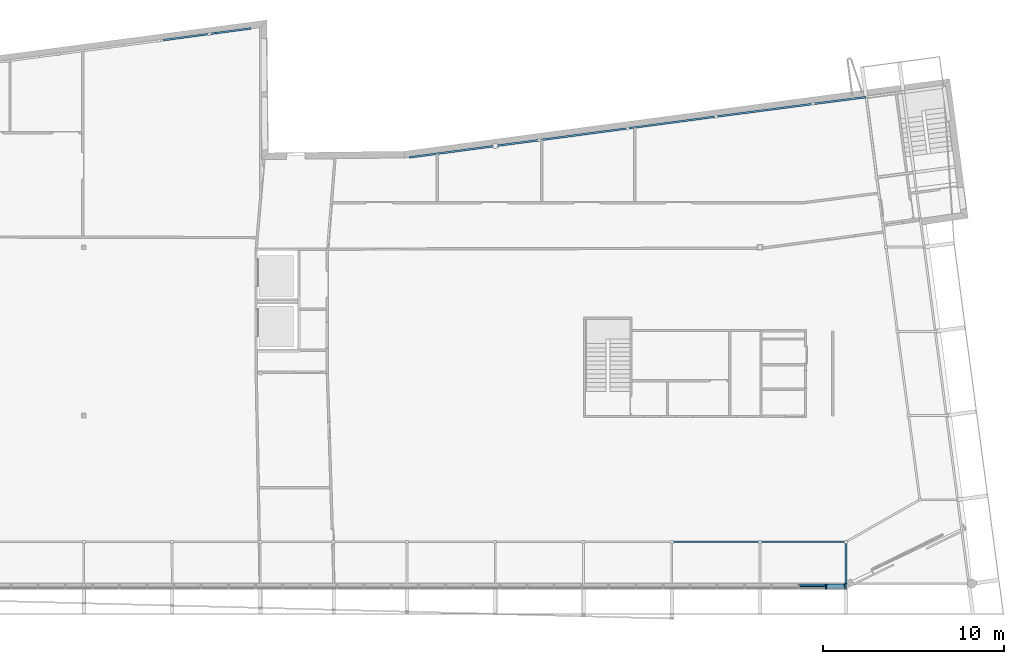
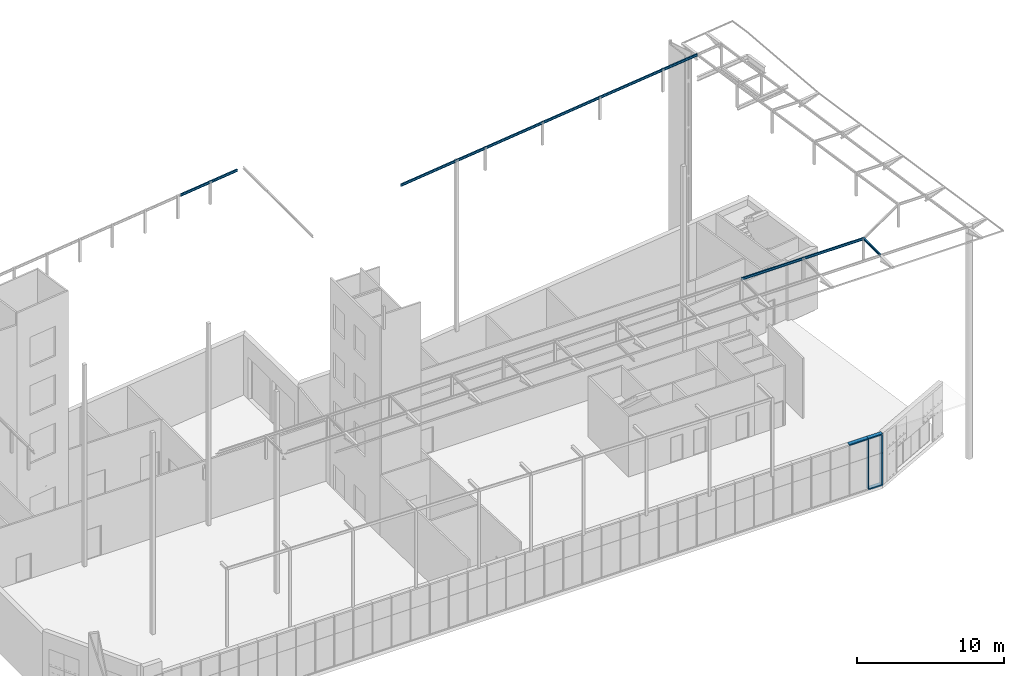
# One storey, part 15 of 40: 11 beams, 8 members, 1 element without a shape of its own.
"""IFC2X3 building model written with IfcOpenShell, lengths in metres."""

from ifc_helpers import new_model, entity, si_unit, converted_unit, money_unit, point, direction, frame, frame_2d, origin_with_axes, place, context, subcontext, project, spatial, polyline, circle_curve, parameter, trimmed, segment, composite_curve, outline, extrude, clip, halfspace, material, type_object, element, aggregate, save


model = new_model("IFC2X3")

# Units and contexts
model_context = context("Model", 3, precision=1e-05, world=origin_with_axes(), true_north=direction((0.0, 1.0)))
body_context = subcontext(model_context, "Body", "Model", "MODEL_VIEW")
ifc_project = project(units=[si_unit("LENGTHUNIT", "METRE"), si_unit("AREAUNIT", "SQUARE_METRE"), si_unit("VOLUMEUNIT", "CUBIC_METRE"), converted_unit("PLANEANGLEUNIT", "DEGREE", entity("IfcPlaneAngleMeasure", 0.0174532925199), si_unit("PLANEANGLEUNIT", "RADIAN"), dimensions=[0, 0, 0, 0, 0, 0, 0]), si_unit("SOLIDANGLEUNIT", "STERADIAN"), money_unit("EUR"), converted_unit("TIMEUNIT", "Year", entity("IfcTimeMeasure", 31556926.0), si_unit("TIMEUNIT", "SECOND"), dimensions=[0, 0, 0, 0, 0, 0, 0]), si_unit("MASSUNIT", "GRAM"), si_unit("THERMODYNAMICTEMPERATUREUNIT", "DEGREE_CELSIUS"), si_unit("LUMINOUSINTENSITYUNIT", "LUMEN")], contexts=[model_context])

# Site, building, storey
site_placement = place(None, origin_with_axes())
site = spatial("IfcSite", under=ifc_project, at=site_placement, Name="Undefined", CompositionType="ELEMENT")
building_placement = place(site_placement, origin_with_axes())
building = spatial("IfcBuilding", under=site, at=building_placement, Name="Undefined", CompositionType="ELEMENT")
storey_placement = place(building_placement, origin_with_axes())
storey = spatial("IfcBuildingStorey", under=building, at=storey_placement, Name="Rez de chauss\x8ee", CompositionType="ELEMENT", Elevation=0.0)

# Beams
ifc_material_1 = material(Name="STEEL/S235JRG2 3386696625")
beam_type_1 = type_object("IfcBeamType", Name="IPE200", PredefinedType="NOTDEFINED")
beam_1_placement = place(storey_placement, frame((51.9749999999, 2.32500000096, 19.025), z_axis=(0.0, 0.0, 1.0), x_axis=(0.0, -1.0, 0.0)))
element("IfcBeam", 1, at=beam_1_placement, inside=storey, type_object=beam_type_1, material=ifc_material_1, Name="Poutre", ObjectType="BEAM", context=body_context, shape_type="SweptSolid", body=[
    extrude(outline(composite_curve([segment(polyline([(0.05, -0.1), (0.05, -0.0915), (0.0147999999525, -0.0915)]), True, "CONTINUOUS"), segment(trimmed(circle_curve(frame_2d((0.0147999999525, -0.0795), x_axis=(-1.0, 0.0)), 0.012), [point((0.0147999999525, -0.0915)), parameter(90.0)], [point((0.0027999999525, -0.0795)), parameter(0.0)], False, "CARTESIAN"), True, "CONTINUOUS"), segment(polyline([(0.0027999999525, -0.0795), (0.0027999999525, 0.0795)]), True, "CONTINUOUS"), segment(trimmed(circle_curve(frame_2d((0.0147999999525, 0.0795), x_axis=(0.0, 1.0)), 0.012), [point((0.0027999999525, 0.0795)), parameter(90.0)], [point((0.0147999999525, 0.0915)), parameter(0.0)], False, "CARTESIAN"), True, "CONTINUOUS"), segment(polyline([(0.0147999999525, 0.0915), (0.05, 0.0915), (0.05, 0.1), (-0.05, 0.1), (-0.05, 0.0915), (-0.0147999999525, 0.0915)]), True, "CONTINUOUS"), segment(trimmed(circle_curve(frame_2d((-0.0147999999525, 0.0795), x_axis=(1.0, 0.0)), 0.012), [point((-0.0147999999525, 0.0915)), parameter(90.0)], [point((-0.0027999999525, 0.0795)), parameter(0.0)], False, "CARTESIAN"), True, "CONTINUOUS"), segment(polyline([(-0.0027999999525, 0.0795), (-0.0027999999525, -0.0795)]), True, "CONTINUOUS"), segment(trimmed(circle_curve(frame_2d((-0.0147999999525, -0.0795), x_axis=(0.0, -1.0)), 0.012), [point((-0.0027999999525, -0.0795)), parameter(90.0)], [point((-0.0147999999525, -0.0915)), parameter(0.0)], False, "CARTESIAN"), True, "CONTINUOUS"), segment(polyline([(-0.0147999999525, -0.0915), (-0.05, -0.0915), (-0.05, -0.1), (0.05, -0.1)]), True, "CONTINUOUS")], self_intersect=False)), frame((0.0, 4.87499999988, 0.0), z_axis=(0.0, -1.0, 0.0), x_axis=(1.0, 0.0, 0.0)), (0.0, 0.0, 1.0), 4.87499999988),
])
beam_2_placement = place(storey_placement, frame((26.7899999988, 30.4211500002, 19.025), z_axis=(0.0, 0.0, 1.0), x_axis=(0.132254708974, -0.991215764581, 0.0)))
element("IfcBeam", 2, at=beam_2_placement, inside=storey, type_object=beam_type_1, material=ifc_material_1, Name="Poutre", ObjectType="BEAM", context=body_context, shape_type="SweptSolid", body=[
    extrude(outline(composite_curve([segment(polyline([(0.05, -0.1), (0.05, -0.0915), (0.0147999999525, -0.0915)]), True, "CONTINUOUS"), segment(trimmed(circle_curve(frame_2d((0.0147999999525, -0.0795), x_axis=(-1.0, 0.0)), 0.012), [point((0.0147999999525, -0.0915)), parameter(90.0)], [point((0.0027999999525, -0.0795)), parameter(0.0)], False, "CARTESIAN"), True, "CONTINUOUS"), segment(polyline([(0.0027999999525, -0.0795), (0.0027999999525, 0.0795)]), True, "CONTINUOUS"), segment(trimmed(circle_curve(frame_2d((0.0147999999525, 0.0795), x_axis=(0.0, 1.0)), 0.012), [point((0.0027999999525, 0.0795)), parameter(90.0)], [point((0.0147999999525, 0.0915)), parameter(0.0)], False, "CARTESIAN"), True, "CONTINUOUS"), segment(polyline([(0.0147999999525, 0.0915), (0.05, 0.0915), (0.05, 0.1), (-0.05, 0.1), (-0.05, 0.0915), (-0.0147999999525, 0.0915)]), True, "CONTINUOUS"), segment(trimmed(circle_curve(frame_2d((-0.0147999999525, 0.0795), x_axis=(1.0, 0.0)), 0.012), [point((-0.0147999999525, 0.0915)), parameter(90.0)], [point((-0.0027999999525, 0.0795)), parameter(0.0)], False, "CARTESIAN"), True, "CONTINUOUS"), segment(polyline([(-0.0027999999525, 0.0795), (-0.0027999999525, -0.0795)]), True, "CONTINUOUS"), segment(trimmed(circle_curve(frame_2d((-0.0147999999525, -0.0795), x_axis=(0.0, -1.0)), 0.012), [point((-0.0027999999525, -0.0795)), parameter(90.0)], [point((-0.0147999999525, -0.0915)), parameter(0.0)], False, "CARTESIAN"), True, "CONTINUOUS"), segment(polyline([(-0.0147999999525, -0.0915), (-0.05, -0.0915), (-0.05, -0.1), (0.05, -0.1)]), True, "CONTINUOUS")], self_intersect=False)), frame((0.0, 1.96801805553, 0.0), z_axis=(0.0, -1.0, 0.0), x_axis=(1.0, 0.0, 0.0)), (0.0, 0.0, 1.0), 1.96801805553),
])
beam_3_placement = place(storey_placement, frame((23.9011899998, 30.0356991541, 19.025), z_axis=(0.0, 0.0, 1.0), x_axis=(0.132256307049, -0.991215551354, 0.0)))
element("IfcBeam", 3, at=beam_3_placement, inside=storey, type_object=beam_type_1, material=ifc_material_1, Name="Poutre", ObjectType="BEAM", context=body_context, shape_type="SweptSolid", body=[
    extrude(outline(composite_curve([segment(polyline([(0.05, -0.1), (0.05, -0.0915), (0.0147999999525, -0.0915)]), True, "CONTINUOUS"), segment(trimmed(circle_curve(frame_2d((0.0147999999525, -0.0795), x_axis=(-1.0, 0.0)), 0.012), [point((0.0147999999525, -0.0915)), parameter(90.0)], [point((0.0027999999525, -0.0795)), parameter(0.0)], False, "CARTESIAN"), True, "CONTINUOUS"), segment(polyline([(0.0027999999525, -0.0795), (0.0027999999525, 0.0795)]), True, "CONTINUOUS"), segment(trimmed(circle_curve(frame_2d((0.0147999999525, 0.0795), x_axis=(0.0, 1.0)), 0.012), [point((0.0027999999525, 0.0795)), parameter(90.0)], [point((0.0147999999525, 0.0915)), parameter(0.0)], False, "CARTESIAN"), True, "CONTINUOUS"), segment(polyline([(0.0147999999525, 0.0915), (0.05, 0.0915), (0.05, 0.1), (-0.05, 0.1), (-0.05, 0.0915), (-0.0147999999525, 0.0915)]), True, "CONTINUOUS"), segment(trimmed(circle_curve(frame_2d((-0.0147999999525, 0.0795), x_axis=(1.0, 0.0)), 0.012), [point((-0.0147999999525, 0.0915)), parameter(90.0)], [point((-0.0027999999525, 0.0795)), parameter(0.0)], False, "CARTESIAN"), True, "CONTINUOUS"), segment(polyline([(-0.0027999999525, 0.0795), (-0.0027999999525, -0.0795)]), True, "CONTINUOUS"), segment(trimmed(circle_curve(frame_2d((-0.0147999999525, -0.0795), x_axis=(0.0, -1.0)), 0.012), [point((-0.0027999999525, -0.0795)), parameter(90.0)], [point((-0.0147999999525, -0.0915)), parameter(0.0)], False, "CARTESIAN"), True, "CONTINUOUS"), segment(polyline([(-0.0147999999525, -0.0915), (-0.05, -0.0915), (-0.05, -0.1), (0.05, -0.1)]), True, "CONTINUOUS")], self_intersect=False)), frame((0.0, 2.91441170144, 0.0), z_axis=(0.0, -1.0, 0.0), x_axis=(1.0, 0.0, 0.0)), (0.0, 0.0, 1.0), 2.91441170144),
])
beam_4_placement = place(storey_placement, frame((56.8499999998, 2.32500000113, 19.025), z_axis=(0.0, 0.0, 1.0), x_axis=(0.0, -1.0, 0.0)))
element("IfcBeam", 4, at=beam_4_placement, inside=storey, type_object=beam_type_1, material=ifc_material_1, Name="Poutre", ObjectType="BEAM", context=body_context, shape_type="SweptSolid", body=[
    extrude(outline(composite_curve([segment(polyline([(0.05, -0.1), (0.05, -0.0915), (0.0147999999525, -0.0915)]), True, "CONTINUOUS"), segment(trimmed(circle_curve(frame_2d((0.0147999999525, -0.0795), x_axis=(-1.0, 0.0)), 0.012), [point((0.0147999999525, -0.0915)), parameter(90.0)], [point((0.0027999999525, -0.0795)), parameter(0.0)], False, "CARTESIAN"), True, "CONTINUOUS"), segment(polyline([(0.0027999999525, -0.0795), (0.0027999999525, 0.0795)]), True, "CONTINUOUS"), segment(trimmed(circle_curve(frame_2d((0.0147999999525, 0.0795), x_axis=(0.0, 1.0)), 0.012), [point((0.0027999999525, 0.0795)), parameter(90.0)], [point((0.0147999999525, 0.0915)), parameter(0.0)], False, "CARTESIAN"), True, "CONTINUOUS"), segment(polyline([(0.0147999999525, 0.0915), (0.05, 0.0915), (0.05, 0.1), (-0.05, 0.1), (-0.05, 0.0915), (-0.0147999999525, 0.0915)]), True, "CONTINUOUS"), segment(trimmed(circle_curve(frame_2d((-0.0147999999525, 0.0795), x_axis=(1.0, 0.0)), 0.012), [point((-0.0147999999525, 0.0915)), parameter(90.0)], [point((-0.0027999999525, 0.0795)), parameter(0.0)], False, "CARTESIAN"), True, "CONTINUOUS"), segment(polyline([(-0.0027999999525, 0.0795), (-0.0027999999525, -0.0795)]), True, "CONTINUOUS"), segment(trimmed(circle_curve(frame_2d((-0.0147999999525, -0.0795), x_axis=(0.0, -1.0)), 0.012), [point((-0.0027999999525, -0.0795)), parameter(90.0)], [point((-0.0147999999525, -0.0915)), parameter(0.0)], False, "CARTESIAN"), True, "CONTINUOUS"), segment(polyline([(-0.0147999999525, -0.0915), (-0.05, -0.0915), (-0.05, -0.1), (0.05, -0.1)]), True, "CONTINUOUS")], self_intersect=False)), frame((0.0, 4.74999999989, 0.0), z_axis=(0.0, -1.0, 0.0), x_axis=(1.0, 0.0, 0.0)), (0.0, 0.0, 1.0), 4.74999999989),
])
beam_5_placement = place(storey_placement, frame((61.5999999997, -4.68317345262e-06, 19.02503), z_axis=(0.0, 0.0, 1.0), x_axis=(1.0, 0.0, 0.0)))
element("IfcBeam", 5, at=beam_5_placement, inside=storey, type_object=beam_type_1, material=ifc_material_1, Name="BEAM", ObjectType="BEAM", context=body_context, shape_type="Clipping", body=[
    clip(clip(extrude(outline(composite_curve([segment(polyline([(0.05, -0.1), (0.05, -0.0915), (0.0147999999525, -0.0915)]), True, "CONTINUOUS"), segment(trimmed(circle_curve(frame_2d((0.0147999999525, -0.0795), x_axis=(-1.0, 0.0)), 0.012), [point((0.0147999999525, -0.0915)), parameter(90.0)], [point((0.0027999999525, -0.0795)), parameter(0.0)], False, "CARTESIAN"), True, "CONTINUOUS"), segment(polyline([(0.0027999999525, -0.0795), (0.0027999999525, 0.0795)]), True, "CONTINUOUS"), segment(trimmed(circle_curve(frame_2d((0.0147999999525, 0.0795), x_axis=(0.0, 1.0)), 0.012), [point((0.0027999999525, 0.0795)), parameter(90.0)], [point((0.0147999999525, 0.0915)), parameter(0.0)], False, "CARTESIAN"), True, "CONTINUOUS"), segment(polyline([(0.0147999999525, 0.0915), (0.05, 0.0915), (0.05, 0.1), (-0.05, 0.1), (-0.05, 0.0915), (-0.0147999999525, 0.0915)]), True, "CONTINUOUS"), segment(trimmed(circle_curve(frame_2d((-0.0147999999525, 0.0795), x_axis=(1.0, 0.0)), 0.012), [point((-0.0147999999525, 0.0915)), parameter(90.0)], [point((-0.0027999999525, 0.0795)), parameter(0.0)], False, "CARTESIAN"), True, "CONTINUOUS"), segment(polyline([(-0.0027999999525, 0.0795), (-0.0027999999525, -0.0795)]), True, "CONTINUOUS"), segment(trimmed(circle_curve(frame_2d((-0.0147999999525, -0.0795), x_axis=(0.0, -1.0)), 0.012), [point((-0.0027999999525, -0.0795)), parameter(90.0)], [point((-0.0147999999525, -0.0915)), parameter(0.0)], False, "CARTESIAN"), True, "CONTINUOUS"), segment(polyline([(-0.0147999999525, -0.0915), (-0.05, -0.0915), (-0.05, -0.1), (0.05, -0.1)]), True, "CONTINUOUS")], self_intersect=False)), frame((0.0, 2.32501018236, -2.79001147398e-05), z_axis=(0.0, -0.999999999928, 1.19999967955e-05), x_axis=(1.0, 0.0, 0.0)), (0.0, 0.0, 1.0), 2.32501357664), halfspace(frame((0.0, 3.39411164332e-06, 0.0), z_axis=(0.0, 0.999999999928, -1.19999967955e-05), x_axis=(0.0, 1.19999967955e-05, 0.999999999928)), True)), halfspace(frame((0.0, 2.32500339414, -2.79000332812e-05), z_axis=(0.0, -0.999999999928, 1.19999967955e-05), x_axis=(0.0, -1.19999967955e-05, -0.999999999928)), True)),
])
beam_type_2 = type_object("IfcBeamType", Name="IPE200 0000000000 100 x 200", PredefinedType="NOTDEFINED")
beam_6_placement = place(storey_placement, frame((54.4124998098, 25.8088849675, 19.025), z_axis=(0.0, 0.0, 1.0), x_axis=(0.129645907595, -0.991560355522, 0.0)))
element("IfcBeam", 6, at=beam_6_placement, inside=storey, type_object=beam_type_2, material=ifc_material_1, Name="Poutre", ObjectType="BEAM", context=body_context, shape_type="SweptSolid", body=[
    extrude(outline(composite_curve([segment(polyline([(0.05, -0.1), (0.05, -0.0915), (0.0147999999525, -0.0915)]), True, "CONTINUOUS"), segment(trimmed(circle_curve(frame_2d((0.0147999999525, -0.0795), x_axis=(-1.0, 0.0)), 0.012), [point((0.0147999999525, -0.0915)), parameter(90.0)], [point((0.0027999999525, -0.0795)), parameter(0.0)], False, "CARTESIAN"), True, "CONTINUOUS"), segment(polyline([(0.0027999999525, -0.0795), (0.0027999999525, 0.0795)]), True, "CONTINUOUS"), segment(trimmed(circle_curve(frame_2d((0.0147999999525, 0.0795), x_axis=(0.0, 1.0)), 0.012), [point((0.0027999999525, 0.0795)), parameter(90.0)], [point((0.0147999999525, 0.0915)), parameter(0.0)], False, "CARTESIAN"), True, "CONTINUOUS"), segment(polyline([(0.0147999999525, 0.0915), (0.05, 0.0915), (0.05, 0.1), (-0.05, 0.1), (-0.05, 0.0915), (-0.0147999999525, 0.0915)]), True, "CONTINUOUS"), segment(trimmed(circle_curve(frame_2d((-0.0147999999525, 0.0795), x_axis=(1.0, 0.0)), 0.012), [point((-0.0147999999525, 0.0915)), parameter(90.0)], [point((-0.0027999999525, 0.0795)), parameter(0.0)], False, "CARTESIAN"), True, "CONTINUOUS"), segment(polyline([(-0.0027999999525, 0.0795), (-0.0027999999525, -0.0795)]), True, "CONTINUOUS"), segment(trimmed(circle_curve(frame_2d((-0.0147999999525, -0.0795), x_axis=(0.0, -1.0)), 0.012), [point((-0.0027999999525, -0.0795)), parameter(90.0)], [point((-0.0147999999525, -0.0915)), parameter(0.0)], False, "CARTESIAN"), True, "CONTINUOUS"), segment(polyline([(-0.0147999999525, -0.0915), (-0.05, -0.0915), (-0.05, -0.1), (0.05, -0.1)]), True, "CONTINUOUS")], self_intersect=False)), frame((0.0, 5.41151373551, 0.0), z_axis=(0.0, -1.0, 0.0), x_axis=(1.0, 0.0, 0.0)), (0.0, 0.0, 1.0), 5.41151373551),
])
beam_7_placement = place(storey_placement, frame((42.2249995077, 24.1886401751, 19.025), z_axis=(0.0, 0.0, 1.0), x_axis=(-0.131935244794, 0.991258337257, 0.0)))
element("IfcBeam", 7, at=beam_7_placement, inside=storey, type_object=beam_type_2, material=ifc_material_1, Name="Poutre", ObjectType="BEAM", context=body_context, shape_type="SweptSolid", body=[
    extrude(outline(composite_curve([segment(polyline([(0.05, -0.1), (0.05, -0.0915), (0.0147999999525, -0.0915)]), True, "CONTINUOUS"), segment(trimmed(circle_curve(frame_2d((0.0147999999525, -0.0795), x_axis=(-1.0, 0.0)), 0.012), [point((0.0147999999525, -0.0915)), parameter(90.0)], [point((0.0027999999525, -0.0795)), parameter(0.0)], False, "CARTESIAN"), True, "CONTINUOUS"), segment(polyline([(0.0027999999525, -0.0795), (0.0027999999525, 0.0795)]), True, "CONTINUOUS"), segment(trimmed(circle_curve(frame_2d((0.0147999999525, 0.0795), x_axis=(0.0, 1.0)), 0.012), [point((0.0027999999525, 0.0795)), parameter(90.0)], [point((0.0147999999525, 0.0915)), parameter(0.0)], False, "CARTESIAN"), True, "CONTINUOUS"), segment(polyline([(0.0147999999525, 0.0915), (0.05, 0.0915), (0.05, 0.1), (-0.05, 0.1), (-0.05, 0.0915), (-0.0147999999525, 0.0915)]), True, "CONTINUOUS"), segment(trimmed(circle_curve(frame_2d((-0.0147999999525, 0.0795), x_axis=(1.0, 0.0)), 0.012), [point((-0.0147999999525, 0.0915)), parameter(90.0)], [point((-0.0027999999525, 0.0795)), parameter(0.0)], False, "CARTESIAN"), True, "CONTINUOUS"), segment(polyline([(-0.0027999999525, 0.0795), (-0.0027999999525, -0.0795)]), True, "CONTINUOUS"), segment(trimmed(circle_curve(frame_2d((-0.0147999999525, -0.0795), x_axis=(0.0, -1.0)), 0.012), [point((-0.0027999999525, -0.0795)), parameter(90.0)], [point((-0.0147999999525, -0.0915)), parameter(0.0)], False, "CARTESIAN"), True, "CONTINUOUS"), segment(polyline([(-0.0147999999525, -0.0915), (-0.05, -0.0915), (-0.05, -0.1), (0.05, -0.1)]), True, "CONTINUOUS")], self_intersect=False)), frame((0.0, 4.79569747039, 0.0), z_axis=(0.0, -1.0, 0.0), x_axis=(1.0, 0.0, 0.0)), (0.0, 0.0, 1.0), 4.79569747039),
])
beam_8_placement = place(storey_placement, frame((42.2249995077, 24.1886401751, 19.025), z_axis=(0.0, 0.0, 1.0), x_axis=(0.13107547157, -0.991372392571, 0.0)))
element("IfcBeam", 8, at=beam_8_placement, inside=storey, type_object=beam_type_2, material=ifc_material_1, Name="Poutre", ObjectType="BEAM", context=body_context, shape_type="SweptSolid", body=[
    extrude(outline(composite_curve([segment(polyline([(0.05, -0.1), (0.05, -0.0915), (0.0147999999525, -0.0915)]), True, "CONTINUOUS"), segment(trimmed(circle_curve(frame_2d((0.0147999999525, -0.0795), x_axis=(-1.0, 0.0)), 0.012), [point((0.0147999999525, -0.0915)), parameter(90.0)], [point((0.0027999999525, -0.0795)), parameter(0.0)], False, "CARTESIAN"), True, "CONTINUOUS"), segment(polyline([(0.0027999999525, -0.0795), (0.0027999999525, 0.0795)]), True, "CONTINUOUS"), segment(trimmed(circle_curve(frame_2d((0.0147999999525, 0.0795), x_axis=(0.0, 1.0)), 0.012), [point((0.0027999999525, 0.0795)), parameter(90.0)], [point((0.0147999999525, 0.0915)), parameter(0.0)], False, "CARTESIAN"), True, "CONTINUOUS"), segment(polyline([(0.0147999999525, 0.0915), (0.05, 0.0915), (0.05, 0.1), (-0.05, 0.1), (-0.05, 0.0915), (-0.0147999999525, 0.0915)]), True, "CONTINUOUS"), segment(trimmed(circle_curve(frame_2d((-0.0147999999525, 0.0795), x_axis=(1.0, 0.0)), 0.012), [point((-0.0147999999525, 0.0915)), parameter(90.0)], [point((-0.0027999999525, 0.0795)), parameter(0.0)], False, "CARTESIAN"), True, "CONTINUOUS"), segment(polyline([(-0.0027999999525, 0.0795), (-0.0027999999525, -0.0795)]), True, "CONTINUOUS"), segment(trimmed(circle_curve(frame_2d((-0.0147999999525, -0.0795), x_axis=(0.0, -1.0)), 0.012), [point((-0.0027999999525, -0.0795)), parameter(90.0)], [point((-0.0147999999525, -0.0915)), parameter(0.0)], False, "CARTESIAN"), True, "CONTINUOUS"), segment(polyline([(-0.0147999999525, -0.0915), (-0.05, -0.0915), (-0.05, -0.1), (0.05, -0.1)]), True, "CONTINUOUS")], self_intersect=False)), frame((0.0, 2.45871302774, 0.0), z_axis=(0.0, -1.0, 0.0), x_axis=(1.0, 0.0, 0.0)), (0.0, 0.0, 1.0), 2.45871302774),
])
beam_9_placement = place(storey_placement, frame((44.6624997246, 24.5109171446, 19.025), z_axis=(0.0, 0.0, 1.0), x_axis=(0.131664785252, -0.991294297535, 0.0)))
element("IfcBeam", 9, at=beam_9_placement, inside=storey, type_object=beam_type_2, material=ifc_material_1, Name="Poutre", ObjectType="BEAM", context=body_context, shape_type="SweptSolid", body=[
    extrude(outline(composite_curve([segment(polyline([(0.05, -0.1), (0.05, -0.0915), (0.0147999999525, -0.0915)]), True, "CONTINUOUS"), segment(trimmed(circle_curve(frame_2d((0.0147999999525, -0.0795), x_axis=(-1.0, 0.0)), 0.012), [point((0.0147999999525, -0.0915)), parameter(90.0)], [point((0.0027999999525, -0.0795)), parameter(0.0)], False, "CARTESIAN"), True, "CONTINUOUS"), segment(polyline([(0.0027999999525, -0.0795), (0.0027999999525, 0.0795)]), True, "CONTINUOUS"), segment(trimmed(circle_curve(frame_2d((0.0147999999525, 0.0795), x_axis=(0.0, 1.0)), 0.012), [point((0.0027999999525, 0.0795)), parameter(90.0)], [point((0.0147999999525, 0.0915)), parameter(0.0)], False, "CARTESIAN"), True, "CONTINUOUS"), segment(polyline([(0.0147999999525, 0.0915), (0.05, 0.0915), (0.05, 0.1), (-0.05, 0.1), (-0.05, 0.0915), (-0.0147999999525, 0.0915)]), True, "CONTINUOUS"), segment(trimmed(circle_curve(frame_2d((-0.0147999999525, 0.0795), x_axis=(1.0, 0.0)), 0.012), [point((-0.0147999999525, 0.0915)), parameter(90.0)], [point((-0.0027999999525, 0.0795)), parameter(0.0)], False, "CARTESIAN"), True, "CONTINUOUS"), segment(polyline([(-0.0027999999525, 0.0795), (-0.0027999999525, -0.0795)]), True, "CONTINUOUS"), segment(trimmed(circle_curve(frame_2d((-0.0147999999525, -0.0795), x_axis=(0.0, -1.0)), 0.012), [point((-0.0027999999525, -0.0795)), parameter(90.0)], [point((-0.0147999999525, -0.0915)), parameter(0.0)], False, "CARTESIAN"), True, "CONTINUOUS"), segment(polyline([(-0.0147999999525, -0.0915), (-0.05, -0.0915), (-0.05, -0.1), (0.05, -0.1)]), True, "CONTINUOUS")], self_intersect=False)), frame((0.0, 4.91781318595, 0.0), z_axis=(0.0, -1.0, 0.0), x_axis=(1.0, 0.0, 0.0)), (0.0, 0.0, 1.0), 4.91781318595),
])
beam_10_placement = place(storey_placement, frame((49.5374998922, 25.1584199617, 19.025), z_axis=(0.0, 0.0, 1.0), x_axis=(0.132256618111, -0.991215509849, 0.0)))
element("IfcBeam", 10, at=beam_10_placement, inside=storey, type_object=beam_type_2, material=ifc_material_1, Name="Poutre", ObjectType="BEAM", context=body_context, shape_type="SweptSolid", body=[
    extrude(outline(composite_curve([segment(polyline([(0.05, -0.1), (0.05, -0.0915), (0.0147999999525, -0.0915)]), True, "CONTINUOUS"), segment(trimmed(circle_curve(frame_2d((0.0147999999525, -0.0795), x_axis=(-1.0, 0.0)), 0.012), [point((0.0147999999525, -0.0915)), parameter(90.0)], [point((0.0027999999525, -0.0795)), parameter(0.0)], False, "CARTESIAN"), True, "CONTINUOUS"), segment(polyline([(0.0027999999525, -0.0795), (0.0027999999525, 0.0795)]), True, "CONTINUOUS"), segment(trimmed(circle_curve(frame_2d((0.0147999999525, 0.0795), x_axis=(0.0, 1.0)), 0.012), [point((0.0027999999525, 0.0795)), parameter(90.0)], [point((0.0147999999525, 0.0915)), parameter(0.0)], False, "CARTESIAN"), True, "CONTINUOUS"), segment(polyline([(0.0147999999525, 0.0915), (0.05, 0.0915), (0.05, 0.1), (-0.05, 0.1), (-0.05, 0.0915), (-0.0147999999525, 0.0915)]), True, "CONTINUOUS"), segment(trimmed(circle_curve(frame_2d((-0.0147999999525, 0.0795), x_axis=(1.0, 0.0)), 0.012), [point((-0.0147999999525, 0.0915)), parameter(90.0)], [point((-0.0027999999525, 0.0795)), parameter(0.0)], False, "CARTESIAN"), True, "CONTINUOUS"), segment(polyline([(-0.0027999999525, 0.0795), (-0.0027999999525, -0.0795)]), True, "CONTINUOUS"), segment(trimmed(circle_curve(frame_2d((-0.0147999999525, -0.0795), x_axis=(0.0, -1.0)), 0.012), [point((-0.0027999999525, -0.0795)), parameter(90.0)], [point((-0.0147999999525, -0.0915)), parameter(0.0)], False, "CARTESIAN"), True, "CONTINUOUS"), segment(polyline([(-0.0147999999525, -0.0915), (-0.05, -0.0915), (-0.05, -0.1), (0.05, -0.1)]), True, "CONTINUOUS")], self_intersect=False)), frame((0.0, 4.91820383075, 0.0), z_axis=(0.0, -1.0, 0.0), x_axis=(1.0, 0.0, 0.0)), (0.0, 0.0, 1.0), 4.91820383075),
])
beam_11_placement = place(storey_placement, frame((59.7783422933, 26.5104655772, 19.025), z_axis=(0.0, 0.0, 1.0), x_axis=(0.127469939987, -0.99184243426, 0.0)))
element("IfcBeam", 11, at=beam_11_placement, inside=storey, type_object=beam_type_2, material=ifc_material_1, Name="Poutre", ObjectType="BEAM", context=body_context, shape_type="SweptSolid", body=[
    extrude(outline(composite_curve([segment(polyline([(0.05, -0.1), (0.05, -0.0915), (0.0147999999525, -0.0915)]), True, "CONTINUOUS"), segment(trimmed(circle_curve(frame_2d((0.0147999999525, -0.0795), x_axis=(-1.0, 0.0)), 0.012), [point((0.0147999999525, -0.0915)), parameter(90.0)], [point((0.0027999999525, -0.0795)), parameter(0.0)], False, "CARTESIAN"), True, "CONTINUOUS"), segment(polyline([(0.0027999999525, -0.0795), (0.0027999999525, 0.0795)]), True, "CONTINUOUS"), segment(trimmed(circle_curve(frame_2d((0.0147999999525, 0.0795), x_axis=(0.0, 1.0)), 0.012), [point((0.0027999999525, 0.0795)), parameter(90.0)], [point((0.0147999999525, 0.0915)), parameter(0.0)], False, "CARTESIAN"), True, "CONTINUOUS"), segment(polyline([(0.0147999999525, 0.0915), (0.05, 0.0915), (0.05, 0.1), (-0.05, 0.1), (-0.05, 0.0915), (-0.0147999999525, 0.0915)]), True, "CONTINUOUS"), segment(trimmed(circle_curve(frame_2d((-0.0147999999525, 0.0795), x_axis=(1.0, 0.0)), 0.012), [point((-0.0147999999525, 0.0915)), parameter(90.0)], [point((-0.0027999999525, 0.0795)), parameter(0.0)], False, "CARTESIAN"), True, "CONTINUOUS"), segment(polyline([(-0.0027999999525, 0.0795), (-0.0027999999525, -0.0795)]), True, "CONTINUOUS"), segment(trimmed(circle_curve(frame_2d((-0.0147999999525, -0.0795), x_axis=(0.0, -1.0)), 0.012), [point((-0.0027999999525, -0.0795)), parameter(90.0)], [point((-0.0147999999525, -0.0915)), parameter(0.0)], False, "CARTESIAN"), True, "CONTINUOUS"), segment(polyline([(-0.0147999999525, -0.0915), (-0.05, -0.0915), (-0.05, -0.1), (0.05, -0.1)]), True, "CONTINUOUS")], self_intersect=False)), frame((0.0, 2.95242712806, 0.0), z_axis=(0.0, -1.0, 0.0), x_axis=(1.0, 0.0, 0.0)), (0.0, 0.0, 1.0), 2.95242712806),
])

# Curtain wall, members
curtain_wall_type = type_object("IfcCurtainWallType", Name="Type de mur-rideau", PredefinedType="NOTDEFINED")
curtain_wall_placement = place(storey_placement, frame((61.0415862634, -0.249999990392, 0.1), z_axis=(0.0, 0.0, 1.0), x_axis=(1.0, 0.0, 0.0)))
curtain_wall = element("IfcCurtainWall", 12, at=curtain_wall_placement, inside=storey, type_object=curtain_wall_type, Name="CurtainWall_02", ObjectType="CURTAIN WALL")
ifc_material_2 = material(Name="25 % 359672764")
member_type_1 = type_object("IfcMemberType", Name="Cadre 100 x 300", PredefinedType="NOTDEFINED")
member_1_placement = place(curtain_wall_placement, frame((0.558413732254, -9.60846785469e-09, 0.0), z_axis=(0.0, 0.0, 1.0), x_axis=(-1.0, 1.7206718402e-08, 0.0)))
member_1 = element("IfcMember", 13, at=member_1_placement, type_object=member_type_1, material=ifc_material_2, Name="Frame-Bnd-798", context=body_context, shape_type="Clipping", body=[
    clip(extrude(outline(polyline([(-0.0999999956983, 0.250000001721), (-0.10000000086, -0.0499999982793), (-8.60339355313e-10, -0.05), (4.30168256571e-09, 0.25), (-0.0999999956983, 0.250000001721)])), frame((0.0, 0.0, 0.0), z_axis=(0.0, 0.0, 1.0), x_axis=(-1.0, -1.7206718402e-08, 0.0)), (0.0, 0.0, 1.0), 2.7), halfspace(frame((0.0, 0.0, 0.0), z_axis=(-0.707106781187, 0.0, 0.707106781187), x_axis=(0.0, -1.0, 0.0)), True)),
])
member_2_placement = place(curtain_wall_placement, frame((-0.558413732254, 9.60846782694e-09, 0.0), z_axis=(1.0, -1.72067183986e-08, 0.0), x_axis=(0.0, 0.0, 1.0)))
member_2 = element("IfcMember", 14, at=member_2_placement, type_object=member_type_1, material=ifc_material_2, Name="Frame-Bnd-905", context=body_context, shape_type="Clipping", body=[
    clip(extrude(outline(polyline([(-0.25, -0.1), (0.05, -0.1), (0.05, 0.0), (-0.25, 0.0), (-0.25, -0.1)])), frame((0.0, 0.0, 0.0), z_axis=(0.0, 0.0, 1.0), x_axis=(0.0, 1.0, 0.0)), (0.0, 0.0, 1.0), 1.11682746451), halfspace(frame((0.558413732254, 0.0, 0.558413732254), z_axis=(-0.707106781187, 0.0, -0.707106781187), x_axis=(0.0, 1.0, 0.0)), True)),
])
member_3_placement = place(curtain_wall_placement, frame((0.558413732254, -9.60846785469e-09, 2.7), z_axis=(0.0, 0.0, 1.0), x_axis=(-1.0, 1.7206718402e-08, 0.0)))
member_3 = element("IfcMember", 15, at=member_3_placement, type_object=member_type_1, material=ifc_material_2, Name="Frame-Bnd-558", context=body_context, shape_type="SweptSolid", body=[
    extrude(outline(polyline([(-0.0999999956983, 0.250000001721), (-0.10000000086, -0.0499999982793), (-8.60339355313e-10, -0.05), (4.30168256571e-09, 0.25), (-0.0999999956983, 0.250000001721)])), frame((0.0, 0.0, 0.0), z_axis=(0.0, 0.0, 1.0), x_axis=(-1.0, -1.7206718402e-08, 0.0)), (0.0, 0.0, 1.0), 1.5),
])
member_4_placement = place(curtain_wall_placement, frame((0.558413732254, -9.60846785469e-09, 4.3), z_axis=(-1.0, 1.72067183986e-08, 0.0), x_axis=(0.0, 0.0, -1.0)))
member_4 = element("IfcMember", 16, at=member_4_placement, type_object=member_type_1, material=ifc_material_2, Name="Frame-Bnd-813", context=body_context, shape_type="Clipping", body=[
    clip(extrude(outline(polyline([(0.25, 0.1), (-0.05, 0.1), (-0.05, 0.0), (0.25, 0.0), (0.25, 0.1)])), frame((0.0, 0.0, 0.0), z_axis=(0.0, 0.0, 1.0), x_axis=(0.0, -1.0, 0.0)), (0.0, 0.0, 1.0), 1.11682746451), halfspace(frame((0.0, 0.0, 0.0), z_axis=(-0.707106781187, 0.0, 0.707106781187), x_axis=(0.0, -1.0, 0.0)), True)),
])
member_5_placement = place(curtain_wall_placement, frame((-0.558413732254, 9.60846782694e-09, 4.3), z_axis=(-1.0, 1.72067183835e-08, 0.0), x_axis=(0.0, 0.0, -1.0)))
member_5 = element("IfcMember", 17, at=member_5_placement, type_object=member_type_1, material=ifc_material_2, Name="Frame-Bnd-812", context=body_context, shape_type="SweptSolid", body=[
    extrude(outline(polyline([(0.25, 0.1), (-0.05, 0.1), (-0.05, 0.0), (0.25, 0.0), (0.25, 0.1)])), frame((0.0, 0.0, 0.0), z_axis=(0.0, 0.0, 1.0), x_axis=(0.0, -1.0, 0.0)), (0.0, 0.0, 1.0), 1.5),
])
member_type_2 = type_object("IfcMemberType", Name="Montant 80 x 250", PredefinedType="NOTDEFINED")
member_6_placement = place(curtain_wall_placement, frame((-0.558413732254, 9.60846782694e-09, 0.0), z_axis=(0.0, 0.0, 1.0), x_axis=(-1.0, 1.72067183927e-08, 0.0)))
member_6 = element("IfcMember", 18, at=member_6_placement, type_object=member_type_2, material=ifc_material_2, Name="Frame-Mll-283", context=body_context, shape_type="SweptSolid", body=[
    extrude(outline(polyline([(-0.0399999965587, 0.200000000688), (-0.0400000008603, -0.0499999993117), (0.0399999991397, -0.0500000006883), (0.0400000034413, 0.199999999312), (-0.0399999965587, 0.200000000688)])), frame((0.0, 0.0, 0.1), z_axis=(0.0, 0.0, 1.0), x_axis=(-1.0, -1.72067183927e-08, 0.0)), (0.0, 0.0, 1.0), 2.6),
])
member_7_placement = place(curtain_wall_placement, frame((-0.558413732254, 9.60846782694e-09, 2.7), z_axis=(0.0, 0.0, 1.0), x_axis=(-1.0, 1.72067183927e-08, 0.0)))
member_7 = element("IfcMember", 19, at=member_7_placement, type_object=member_type_2, material=ifc_material_2, Name="Frame-Mll-688", context=body_context, shape_type="SweptSolid", body=[
    extrude(outline(polyline([(-0.0399999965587, 0.200000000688), (-0.0400000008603, -0.0499999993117), (0.0399999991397, -0.0500000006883), (0.0400000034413, 0.199999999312), (-0.0399999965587, 0.200000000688)])), frame((0.0, 0.0, 0.0), z_axis=(0.0, 0.0, 1.0), x_axis=(-1.0, -1.72067183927e-08, 0.0)), (0.0, 0.0, 1.0), 1.5),
])
member_type_3 = type_object("IfcMemberType", Name="Traverse 60 x 100", PredefinedType="NOTDEFINED")
member_8_placement = place(curtain_wall_placement, frame((-2.05841373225, 3.54185454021e-08, 4.2), z_axis=(1.0, -1.72067183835e-08, 0.0), x_axis=(0.0, 0.0, 1.0)))
member_8 = element("IfcMember", 20, at=member_8_placement, type_object=member_type_3, material=ifc_material_2, Name="Frame-Trs-227", context=body_context, shape_type="SweptSolid", body=[
    extrude(outline(polyline([(-0.11, -0.03), (-0.01, -0.03), (-0.01, 0.03), (-0.11, 0.03), (-0.11, -0.03)])), frame((0.0, 0.0, 0.04), z_axis=(0.0, 0.0, 1.0), x_axis=(0.0, 1.0, 0.0)), (0.0, 0.0, 1.0), 1.42),
])
aggregate(curtain_wall, [member_1, member_6, member_2, member_7, member_3, member_8, member_4, member_5])

save(model, "model.ifc")
